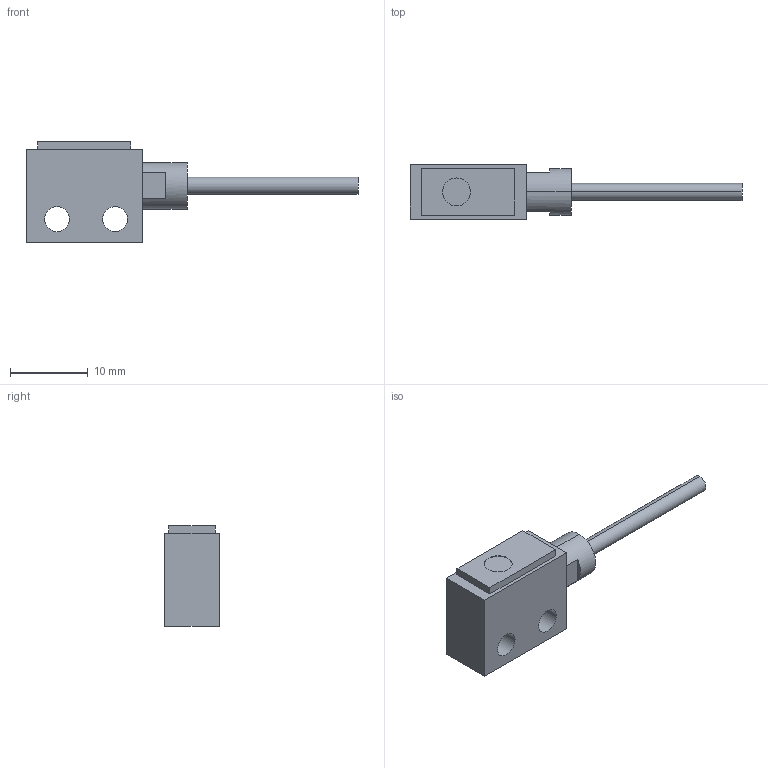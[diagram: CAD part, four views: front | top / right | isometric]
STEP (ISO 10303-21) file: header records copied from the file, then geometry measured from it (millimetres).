
FILE_DESCRIPTION (( 'STEP AP203' ), '1' );
FILE_NAME ('FT-Z802Y.STEP', '2005-09-08T02:35:40', ( '' ), ( '' ), 'SwSTEP 2.0', 'SolidWorks 2004073', '' );
FILE_SCHEMA (( 'CONFIG_CONTROL_DESIGN' ));
Length unit declared in the file: millimetre
Products named in the file (1): FT-Z802Y
Bounding box: 42.8 x 7 x 13 mm (x, y, z)
Volume: 1459.3 mm3; surface area: 1148.4 mm2
Topology: 1 solids, 1 shells, 28 faces, 66 edges, 44 vertices
Faces by surface type: plane 18, cylinder 10
Entity records: 899 total; most frequent: DIRECTION 148, CARTESIAN_POINT 139, ORIENTED_EDGE 132, EDGE_CURVE 66, AXIS2_PLACEMENT_3D 53, VERTEX_POINT 44, VECTOR 42, LINE 42
